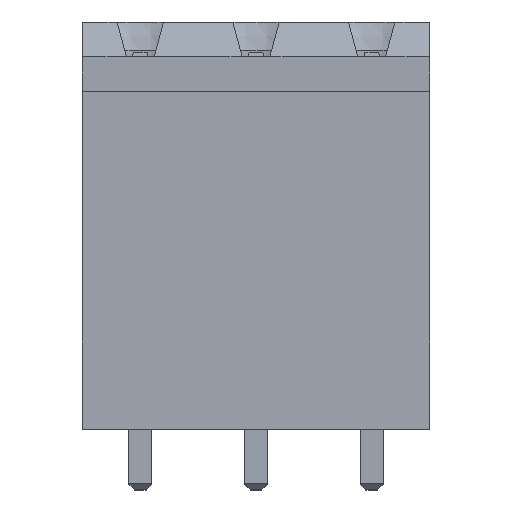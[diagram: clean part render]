
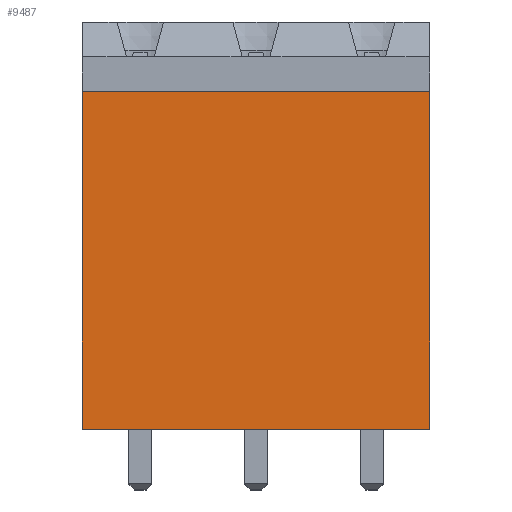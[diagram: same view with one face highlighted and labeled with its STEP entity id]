
A CAD part, top view. The second image highlights one B-rep face of the part: STEP entity #9487.
In plain terms, the highlighted planar face has unit normal (0, 0, 1).
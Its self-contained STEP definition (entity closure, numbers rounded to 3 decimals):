
#5=DIRECTION('',(1.,0.,0.));
#6=VECTOR('',#5,15.);
#7=CARTESIAN_POINT('',(-10.,0.,-0.5));
#8=LINE('',#7,#6);
#596=DIRECTION('',(0.,1.,0.));
#597=VECTOR('',#596,14.6);
#598=CARTESIAN_POINT('',(5.,0.,-0.5));
#599=LINE('',#598,#597);
#3029=DIRECTION('',(-1.,0.,0.));
#3030=VECTOR('',#3029,15.);
#3031=CARTESIAN_POINT('',(5.,14.6,-0.5));
#3032=LINE('',#3031,#3030);
#3037=DIRECTION('',(0.,1.,0.));
#3038=VECTOR('',#3037,14.6);
#3039=CARTESIAN_POINT('',(-10.,0.,-0.5));
#3040=LINE('',#3039,#3038);
#4231=CARTESIAN_POINT('',(-10.,0.,-0.5));
#4232=VERTEX_POINT('',#4231);
#4233=CARTESIAN_POINT('',(5.,0.,-0.5));
#4234=VERTEX_POINT('',#4233);
#4443=CARTESIAN_POINT('',(5.,14.6,-0.5));
#4444=VERTEX_POINT('',#4443);
#4469=CARTESIAN_POINT('',(-10.,14.6,-0.5));
#4470=VERTEX_POINT('',#4469);
#9476=CARTESIAN_POINT('',(10.,-3.35,-0.5));
#9477=DIRECTION('',(0.,0.,-1.));
#9478=DIRECTION('',(0.,1.,0.));
#9479=AXIS2_PLACEMENT_3D('',#9476,#9477,#9478);
#9480=PLANE('',#9479);
#9481=ORIENTED_EDGE('',*,*,#5436,.F.);
#9482=ORIENTED_EDGE('',*,*,#7359,.T.);
#9483=ORIENTED_EDGE('',*,*,#9468,.F.);
#9484=ORIENTED_EDGE('',*,*,#6370,.F.);
#9485=EDGE_LOOP('',(#9481,#9482,#9483,#9484));
#9486=FACE_OUTER_BOUND('',#9485,.F.);
#9487=ADVANCED_FACE('',(#9486),#9480,.F.);
#5436=EDGE_CURVE('',#4232,#4234,#8,.T.);
#6370=EDGE_CURVE('',#4234,#4444,#599,.T.);
#7359=EDGE_CURVE('',#4232,#4470,#3040,.T.);
#9468=EDGE_CURVE('',#4444,#4470,#3032,.T.);
